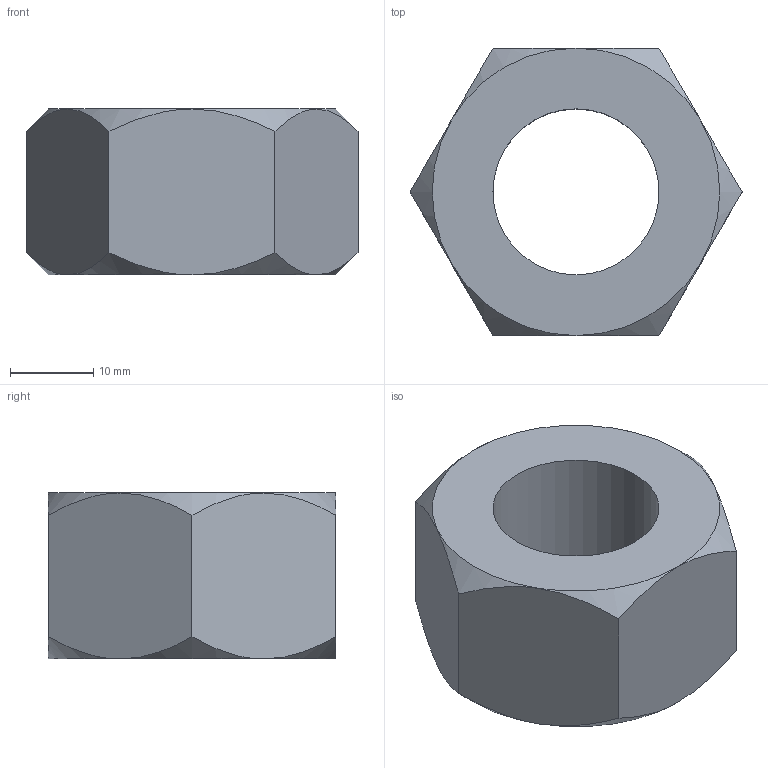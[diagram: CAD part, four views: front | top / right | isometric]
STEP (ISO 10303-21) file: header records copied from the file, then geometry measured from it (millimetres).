
FILE_DESCRIPTION(/* description */ (''),/* implementation_level */ '2;1');
FILE_NAME(/* name */ 'Nut1',/* time_stamp */ '2005-04-08T16:47:41+05:00',/* author */ (''),/* organization */ (''),/* preprocessor_version */ 'ST-DEVELOPER v9',/* originating_system */ 'UGS - NX 3.0',/* authorisation */ '');
FILE_SCHEMA (('CONFIG_CONTROL_DESIGN'));
Length unit declared in the file: millimetre
Products named in the file (1): nut1
Bounding box: 40 x 34.64 x 20 mm (x, y, z)
Volume: 14344 mm3; surface area: 4966.1 mm2
Topology: 1 solids, 1 shells, 21 faces, 45 edges, 26 vertices
Faces by surface type: cone 12, plane 8, cylinder 1
Full cylindrical faces by diameter (mm): 20 x1
Entity records: 682 total; most frequent: CARTESIAN_POINT 180, ORIENTED_EDGE 88, DIRECTION 78, EDGE_CURVE 44, AXIS2_PLACEMENT_3D 36, VERTEX_POINT 26, EDGE_LOOP 24, B_SPLINE_CURVE_WITH_KNOTS 24
